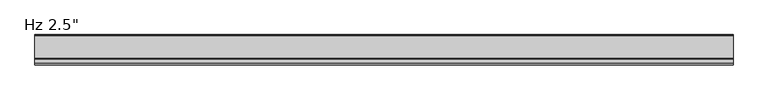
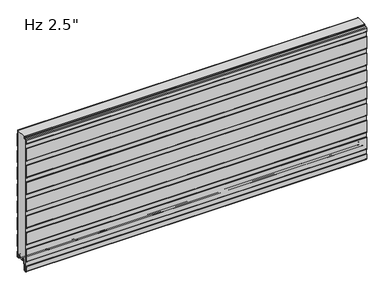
"""IFC4 building model written with IfcOpenShell, lengths in millimetres: plate geometry."""

from ifc_helpers import new_model, si_unit, point, frame, frame_2d, origin, place, context, project, spatial, polyline, circle_curve, trimmed, segment, composite_curve, outline, extrude, source, transform, mapped, element, save
from ifc_brep_helpers import plane_surface, cylinder_surface, revolved_surface, advanced_brep


def plate_1b5a5f25(model_context):
    return source(origin(), model_context, "Body", "SolidModel", [
        advanced_brep(
        [(-730.0, -17.0015368, 2.0313088), (-730.0, -18.00154, 1.0313116), (-730.0, -19.0015313, 2.0313088), (-730.0, -19.0015314, 6.0315125), (-730.0, -18.0015368, 6.0315125), (-730.0, -18.0015368, 8.7237223), (-730.0, -14.7015411, 12.023718), (-730.0, -10.3015499, 12.023718), (-730.0, -7.0015544, 8.7237225), (-730.0, -7.0015544, -1.6962564), (-730.0, -5.2315602, -3.4662506), (-730.0, -1.0000126, -3.4662506), (-730.0, -1.0000126, 21.034026), (-730.0, -2.2002516, 22.4196686), (-730.0, -2.2002516, 41.7948349), (-730.0, -1.0000209, 43.1804679), (-730.0, -1.0000209, 97.2338833), (-730.0, -2.2002516, 98.6195162), (-730.0, -2.2002516, 117.9946825), (-730.0, -1.0000209, 119.3803155), (-730.0, -1.0000209, 173.4337309), (-730.0, -2.2002516, 174.8193638), (-730.0, -2.2002516, 194.1945301), (-730.0, -1.0000209, 195.5801631), (-730.0, -1.0000209, 249.6335785), (-730.0, -2.2002516, 251.0192114), (-730.0, -2.2002516, 270.3943777), (-730.0, -1.0000209, 271.7800107), (-730.0, -1.0000209, 325.8334261), (-730.0, -2.2002516, 327.219059), (-730.0, -2.2002516, 346.5942253), (-730.0, -1.0000209, 347.9798583), (-730.0, -1.0000209, 402.0332737), (-730.0, -2.2002516, 403.4189066), (-730.0, -2.2002516, 422.7940729), (-730.0, -1.0000209, 424.1797059), (-730.0, -1.0000209, 478.2331213), (-730.0, -2.2002516, 479.6187542), (-730.0, -2.2002516, 498.9939205), (-730.0, -1.0000209, 500.3795535), (-730.0, -1.0000209, 554.4329689), (-730.0, -2.2002516, 555.8186018), (-730.0, -2.2002516, 571.2), (-730.0, -1.2002516, 571.2), (-730.0, -1.2002516, 556.1914823), (-730.0, -0.3418094, 555.2004346), (-730.0, -2.09e-05, 554.2838177), (-730.0, -2.09e-05, 500.5287046), (-730.0, -0.3418094, 499.6120877), (-730.0, -1.2002516, 498.6210401), (-730.0, -1.2002516, 479.9916347), (-730.0, -0.3418094, 479.000587), (-730.0, -2.09e-05, 478.0839701), (-730.0, -2.09e-05, 424.328857), (-730.0, -0.3418094, 423.4122401), (-730.0, -1.2002516, 422.4211925), (-730.0, -1.2002516, 403.7917871), (-730.0, -0.3418094, 402.8007394), (-730.0, -2.09e-05, 401.8841225), (-730.0, -2.09e-05, 348.1290094), (-730.0, -0.3418094, 347.2123925), (-730.0, -1.2002516, 346.2213449), (-730.0, -1.2002516, 327.5919395), (-730.0, -0.3418094, 326.6008918), (-730.0, -2.09e-05, 325.6842749), (-730.0, -2.09e-05, 271.9291618), (-730.0, -0.3418094, 271.0125449), (-730.0, -1.2002516, 270.0214973), (-730.0, -1.2002516, 251.3920919), (-730.0, -0.3418094, 250.4010442), (-730.0, -2.09e-05, 249.4844273), (-730.0, -2.09e-05, 195.7293142), (-730.0, -0.3418094, 194.8126973), (-730.0, -1.2002516, 193.8216497), (-730.0, -1.2002516, 175.1922443), (-730.0, -0.3418094, 174.2011966), (-730.0, -2.09e-05, 173.2845797), (-730.0, -2.09e-05, 119.5294666), (-730.0, -0.3418094, 118.6128497), (-730.0, -1.2002516, 117.6218021), (-730.0, -1.2002516, 98.9923967), (-730.0, -0.3418094, 98.001349), (-730.0, -2.09e-05, 97.0847321), (-730.0, -2.09e-05, 43.329619), (-730.0, -0.3418094, 42.4130021), (-730.0, -1.2002516, 41.4219545), (-730.0, -1.2002516, 22.7925491), (-730.0, -0.3418094, 21.8015014), (-730.0, -2.09e-05, 20.8847931), (-730.0, -1.26e-05, -3.0662545), (-730.0, -1.4000087, -4.4662506), (-730.0, -5.2315602, -4.4662506), (-730.0, -8.0015544, -1.6962564), (-730.0, -8.0015544, 8.7237225), (-730.0, -10.3015499, 11.023718), (-730.0, -14.7015411, 11.023718), (-730.0, -17.0015368, 8.7237223), (730.0, -17.0015368, 2.0313088), (730.0, -17.0015368, 8.7237223), (730.0, -14.7015411, 11.023718), (730.0, -10.3015499, 11.023718), (730.0, -8.0015544, 8.7237225), (730.0, -8.0015544, -1.6962564), (730.0, -5.2315602, -4.4662506), (730.0, -1.4000087, -4.4662506), (730.0, -1.26e-05, -3.0662545), (730.0, -1.26e-05, 20.8848845), (730.0, -0.3418094, 21.8015014), (730.0, -1.2002516, 22.7925491), (730.0, -1.2002516, 41.4219545), (730.0, -0.3418094, 42.4130021), (730.0, -2.09e-05, 43.329619), (730.0, -2.09e-05, 97.0847321), (730.0, -0.3418094, 98.001349), (730.0, -1.2002516, 98.9923967), (730.0, -1.2002516, 117.6218021), (730.0, -0.3418094, 118.6128497), (730.0, -2.09e-05, 119.5294666), (730.0, -2.09e-05, 173.2845797), (730.0, -0.3418094, 174.2011966), (730.0, -1.2002516, 175.1922443), (730.0, -1.2002516, 193.8216497), (730.0, -0.3418094, 194.8126973), (730.0, -2.09e-05, 195.7293142), (730.0, -2.09e-05, 249.4844273), (730.0, -0.3418094, 250.4010442), (730.0, -1.2002516, 251.3920919), (730.0, -1.2002516, 270.0214973), (730.0, -0.3418094, 271.0125449), (730.0, -2.09e-05, 271.9291618), (730.0, -2.09e-05, 325.6842749), (730.0, -0.3418094, 326.6008918), (730.0, -1.2002516, 327.5919395), (730.0, -1.2002516, 346.2213449), (730.0, -0.3418094, 347.2123925), (730.0, -2.09e-05, 348.1290094), (730.0, -2.09e-05, 401.8841225), (730.0, -0.3418094, 402.8007394), (730.0, -1.2002516, 403.7917871), (730.0, -1.2002516, 422.4211925), (730.0, -0.3418094, 423.4122401), (730.0, -2.09e-05, 424.328857), (730.0, -2.09e-05, 478.0839701), (730.0, -0.3418094, 479.000587), (730.0, -1.2002516, 479.9916347), (730.0, -1.2002516, 498.6210401), (730.0, -0.3418094, 499.6120877), (730.0, -2.09e-05, 500.5287046), (730.0, -2.09e-05, 554.2838177), (730.0, -0.3418094, 555.2004346), (730.0, -1.2002516, 556.1914823), (730.0, -1.2002516, 571.2), (730.0, -2.2002516, 571.2), (730.0, -2.2002516, 555.8186018), (730.0, -1.0000209, 554.4329689), (730.0, -1.0000209, 500.3795535), (730.0, -2.2002516, 498.9939205), (730.0, -2.2002516, 479.6187542), (730.0, -1.0000209, 478.2331213), (730.0, -1.0000209, 424.1797059), (730.0, -2.2002516, 422.7940729), (730.0, -2.2002516, 403.4189066), (730.0, -1.0000209, 402.0332737), (730.0, -1.0000209, 347.9798583), (730.0, -2.2002516, 346.5942253), (730.0, -2.2002516, 327.219059), (730.0, -1.0000209, 325.8334261), (730.0, -1.0000209, 271.7800107), (730.0, -2.2002516, 270.3943777), (730.0, -2.2002516, 251.0192114), (730.0, -1.0000209, 249.6335785), (730.0, -1.0000209, 195.5801631), (730.0, -2.2002516, 194.1945301), (730.0, -2.2002516, 174.8193638), (730.0, -1.0000209, 173.4337309), (730.0, -1.0000209, 119.3803155), (730.0, -2.2002516, 117.9946825), (730.0, -2.2002516, 98.6195162), (730.0, -1.0000209, 97.2338833), (730.0, -1.0000209, 43.1804679), (730.0, -2.2002516, 41.7948349), (730.0, -2.2002516, 22.4196686), (730.0, -1.0000126, 21.034026), (730.0, -1.0000126, -3.4662506), (730.0, -5.2315602, -3.4662506), (730.0, -7.0015544, -1.6962564), (730.0, -7.0015544, 8.7237225), (730.0, -10.3015499, 12.023718), (730.0, -14.7015411, 12.023718), (730.0, -18.0015368, 8.7237223), (730.0, -18.0015368, 6.0315125), (730.0, -19.0015314, 6.0315125), (730.0, -19.0015314, 2.0313088), (730.0, -18.00154, 1.0313116)],
        [
            (0, 1, circle_curve(frame((-730.0, -18.0015341, 2.0313088), z_axis=(-1.0, 0.0, 0.0), x_axis=(0.0, 0.0, 1.0)), 0.9999973)),
            (1, 2, circle_curve(frame((-730.0, -18.0015341, 2.0313088), z_axis=(-1.0, 0.0, 0.0), x_axis=(0.0, 0.0, 1.0)), 0.9999972)),
            (2, 3),
            (3, 4),
            (4, 5),
            (5, 6, circle_curve(frame((-730.0, -14.7015411, 8.7237223), z_axis=(-1.0, 0.0, 0.0), x_axis=(0.0, 0.0, 1.0)), 3.2999957)),
            (6, 7),
            (7, 8, circle_curve(frame((-730.0, -10.3015499, 8.7237225), z_axis=(-1.0, 0.0, 0.0), x_axis=(0.0, 0.0, 1.0)), 3.2999955)),
            (8, 9),
            (9, 10, circle_curve(frame((-730.0, -5.2315602, -1.6962564), z_axis=(1.0, 0.0, 0.0), x_axis=(0.0, 0.0, 1.0)), 1.7699942)),
            (10, 11),
            (11, 12),
            (12, 13),
            (13, 14),
            (14, 15),
            (15, 16),
            (16, 17),
            (17, 18),
            (18, 19),
            (19, 20),
            (20, 21),
            (21, 22),
            (22, 23),
            (23, 24),
            (24, 25),
            (25, 26),
            (26, 27),
            (27, 28),
            (28, 29),
            (29, 30),
            (30, 31),
            (31, 32),
            (32, 33),
            (33, 34),
            (34, 35),
            (35, 36),
            (36, 37),
            (37, 38),
            (38, 39),
            (39, 40),
            (40, 41),
            (41, 42),
            (42, 43),
            (43, 44),
            (44, 45),
            (45, 46, circle_curve(frame((-730.0, -1.4000181, 554.2838177), z_axis=(-1.0, 0.0, 0.0), x_axis=(0.0, 0.0, 1.0)), 1.3999972)),
            (46, 47),
            (47, 48, circle_curve(frame((-730.0, -1.4000181, 500.5287046), z_axis=(-1.0, 0.0, 0.0), x_axis=(0.0, 0.0, 1.0)), 1.3999972)),
            (48, 49),
            (49, 50),
            (50, 51),
            (51, 52, circle_curve(frame((-730.0, -1.4000181, 478.0839701), z_axis=(-1.0, 0.0, 0.0), x_axis=(0.0, 0.0, 1.0)), 1.3999972)),
            (52, 53),
            (53, 54, circle_curve(frame((-730.0, -1.4000181, 424.328857), z_axis=(-1.0, 0.0, 0.0), x_axis=(0.0, 0.0, 1.0)), 1.3999972)),
            (54, 55),
            (55, 56),
            (56, 57),
            (57, 58, circle_curve(frame((-730.0, -1.4000181, 401.8841225), z_axis=(-1.0, 0.0, 0.0), x_axis=(0.0, 0.0, 1.0)), 1.3999972)),
            (58, 59),
            (59, 60, circle_curve(frame((-730.0, -1.4000181, 348.1290094), z_axis=(-1.0, 0.0, 0.0), x_axis=(0.0, 0.0, 1.0)), 1.3999972)),
            (60, 61),
            (61, 62),
            (62, 63),
            (63, 64, circle_curve(frame((-730.0, -1.4000181, 325.6842749), z_axis=(-1.0, 0.0, 0.0), x_axis=(0.0, 0.0, 1.0)), 1.3999972)),
            (64, 65),
            (65, 66, circle_curve(frame((-730.0, -1.4000181, 271.9291618), z_axis=(-1.0, 0.0, 0.0), x_axis=(0.0, 0.0, 1.0)), 1.3999972)),
            (66, 67),
            (67, 68),
            (68, 69),
            (69, 70, circle_curve(frame((-730.0, -1.4000181, 249.4844273), z_axis=(-1.0, 0.0, 0.0), x_axis=(0.0, 0.0, 1.0)), 1.3999972)),
            (70, 71),
            (71, 72, circle_curve(frame((-730.0, -1.4000181, 195.7293142), z_axis=(-1.0, 0.0, 0.0), x_axis=(0.0, 0.0, 1.0)), 1.3999972)),
            (72, 73),
            (73, 74),
            (74, 75),
            (75, 76, circle_curve(frame((-730.0, -1.4000181, 173.2845797), z_axis=(-1.0, 0.0, 0.0), x_axis=(0.0, 0.0, 1.0)), 1.3999972)),
            (76, 77),
            (77, 78, circle_curve(frame((-730.0, -1.4000181, 119.5294666), z_axis=(-1.0, 0.0, 0.0), x_axis=(0.0, 0.0, 1.0)), 1.3999972)),
            (78, 79),
            (79, 80),
            (80, 81),
            (81, 82, circle_curve(frame((-730.0, -1.4000181, 97.0847321), z_axis=(-1.0, 0.0, 0.0), x_axis=(0.0, 0.0, 1.0)), 1.3999972)),
            (82, 83),
            (83, 84, circle_curve(frame((-730.0, -1.4000181, 43.329619), z_axis=(-1.0, 0.0, 0.0), x_axis=(0.0, 0.0, 1.0)), 1.3999972)),
            (84, 85),
            (85, 86),
            (86, 87),
            (87, 88, circle_curve(frame((-730.0, -1.4000181, 20.8848845), z_axis=(-1.0, 0.0, 0.0), x_axis=(0.0, 0.0, 1.0)), 1.3999972)),
            (88, 89),
            (89, 90, circle_curve(frame((-730.0, -1.4000087, -3.0662545), z_axis=(-1.0, 0.0, 0.0), x_axis=(0.0, 0.0, 1.0)), 1.3999962)),
            (90, 91),
            (91, 92, circle_curve(frame((-730.0, -5.2315602, -1.6962564), z_axis=(-1.0, 0.0, 0.0), x_axis=(0.0, 0.0, 1.0)), 2.7699942)),
            (92, 93),
            (93, 94, circle_curve(frame((-730.0, -10.3015499, 8.7237225), z_axis=(1.0, 0.0, 0.0), x_axis=(0.0, 0.0, 1.0)), 2.2999955)),
            (94, 95),
            (95, 96, circle_curve(frame((-730.0, -14.7015411, 8.7237223), z_axis=(1.0, 0.0, 0.0), x_axis=(0.0, 0.0, 1.0)), 2.2999957)),
            (96, 0),
            (97, 98),
            (98, 99, circle_curve(frame((730.0, -14.7015411, 8.7237223), z_axis=(-1.0, 0.0, 0.0), x_axis=(0.0, 0.0, 1.0)), 2.2999957)),
            (99, 100),
            (100, 101, circle_curve(frame((730.0, -10.3015499, 8.7237225), z_axis=(-1.0, 0.0, 0.0), x_axis=(0.0, 0.0, 1.0)), 2.2999955)),
            (101, 102),
            (102, 103, circle_curve(frame((730.0, -5.2315602, -1.6962564), z_axis=(1.0, 0.0, 0.0), x_axis=(0.0, 0.0, 1.0)), 2.7699942)),
            (103, 104),
            (104, 105, circle_curve(frame((730.0, -1.4000087, -3.0662545), z_axis=(1.0, 0.0, 0.0), x_axis=(0.0, 0.0, 1.0)), 1.3999962)),
            (105, 106),
            (106, 107, circle_curve(frame((730.0, -1.4000181, 20.8848845), z_axis=(1.0, 0.0, 0.0), x_axis=(0.0, 0.0, 1.0)), 1.3999972)),
            (107, 108),
            (108, 109),
            (109, 110),
            (110, 111, circle_curve(frame((730.0, -1.4000181, 43.329619), z_axis=(1.0, 0.0, 0.0), x_axis=(0.0, 0.0, 1.0)), 1.3999972)),
            (111, 112),
            (112, 113, circle_curve(frame((730.0, -1.4000181, 97.0847321), z_axis=(1.0, 0.0, 0.0), x_axis=(0.0, 0.0, 1.0)), 1.3999972)),
            (113, 114),
            (114, 115),
            (115, 116),
            (116, 117, circle_curve(frame((730.0, -1.4000181, 119.5294666), z_axis=(1.0, 0.0, 0.0), x_axis=(0.0, 0.0, 1.0)), 1.3999972)),
            (117, 118),
            (118, 119, circle_curve(frame((730.0, -1.4000181, 173.2845797), z_axis=(1.0, 0.0, 0.0), x_axis=(0.0, 0.0, 1.0)), 1.3999972)),
            (119, 120),
            (120, 121),
            (121, 122),
            (122, 123, circle_curve(frame((730.0, -1.4000181, 195.7293142), z_axis=(1.0, 0.0, 0.0), x_axis=(0.0, 0.0, 1.0)), 1.3999972)),
            (123, 124),
            (124, 125, circle_curve(frame((730.0, -1.4000181, 249.4844273), z_axis=(1.0, 0.0, 0.0), x_axis=(0.0, 0.0, 1.0)), 1.3999972)),
            (125, 126),
            (126, 127),
            (127, 128),
            (128, 129, circle_curve(frame((730.0, -1.4000181, 271.9291618), z_axis=(1.0, 0.0, 0.0), x_axis=(0.0, 0.0, 1.0)), 1.3999972)),
            (129, 130),
            (130, 131, circle_curve(frame((730.0, -1.4000181, 325.6842749), z_axis=(1.0, 0.0, 0.0), x_axis=(0.0, 0.0, 1.0)), 1.3999972)),
            (131, 132),
            (132, 133),
            (133, 134),
            (134, 135, circle_curve(frame((730.0, -1.4000181, 348.1290094), z_axis=(1.0, 0.0, 0.0), x_axis=(0.0, 0.0, 1.0)), 1.3999972)),
            (135, 136),
            (136, 137, circle_curve(frame((730.0, -1.4000181, 401.8841225), z_axis=(1.0, 0.0, 0.0), x_axis=(0.0, 0.0, 1.0)), 1.3999972)),
            (137, 138),
            (138, 139),
            (139, 140),
            (140, 141, circle_curve(frame((730.0, -1.4000181, 424.328857), z_axis=(1.0, 0.0, 0.0), x_axis=(0.0, 0.0, 1.0)), 1.3999972)),
            (141, 142),
            (142, 143, circle_curve(frame((730.0, -1.4000181, 478.0839701), z_axis=(1.0, 0.0, 0.0), x_axis=(0.0, 0.0, 1.0)), 1.3999972)),
            (143, 144),
            (144, 145),
            (145, 146),
            (146, 147, circle_curve(frame((730.0, -1.4000181, 500.5287046), z_axis=(1.0, 0.0, 0.0), x_axis=(0.0, 0.0, 1.0)), 1.3999972)),
            (147, 148),
            (148, 149, circle_curve(frame((730.0, -1.4000181, 554.2838177), z_axis=(1.0, 0.0, 0.0), x_axis=(0.0, 0.0, 1.0)), 1.3999972)),
            (149, 150),
            (150, 151),
            (151, 152),
            (152, 153),
            (153, 154),
            (154, 155),
            (155, 156),
            (156, 157),
            (157, 158),
            (158, 159),
            (159, 160),
            (160, 161),
            (161, 162),
            (162, 163),
            (163, 164),
            (164, 165),
            (165, 166),
            (166, 167),
            (167, 168),
            (168, 169),
            (169, 170),
            (170, 171),
            (171, 172),
            (172, 173),
            (173, 174),
            (174, 175),
            (175, 176),
            (176, 177),
            (177, 178),
            (178, 179),
            (179, 180),
            (180, 181),
            (181, 182),
            (182, 183),
            (183, 184),
            (184, 185, circle_curve(frame((730.0, -5.2315602, -1.6962564), z_axis=(-1.0, 0.0, 0.0), x_axis=(0.0, 0.0, 1.0)), 1.7699942)),
            (185, 186),
            (186, 187, circle_curve(frame((730.0, -10.3015499, 8.7237225), z_axis=(1.0, 0.0, 0.0), x_axis=(0.0, 0.0, 1.0)), 3.2999955)),
            (187, 188),
            (188, 189, circle_curve(frame((730.0, -14.7015411, 8.7237223), z_axis=(1.0, 0.0, 0.0), x_axis=(0.0, 0.0, 1.0)), 3.2999957)),
            (189, 190),
            (190, 191),
            (191, 192),
            (192, 193, circle_curve(frame((730.0, -18.0015341, 2.0313088), z_axis=(1.0, 0.0, 0.0), x_axis=(0.0, 0.0, 1.0)), 0.9999972)),
            (193, 97, circle_curve(frame((730.0, -18.0015341, 2.0313088), z_axis=(1.0, 0.0, 0.0), x_axis=(0.0, 0.0, 1.0)), 0.9999973)),
            (96, 98),
            (97, 0),
            (95, 99),
            (94, 100),
            (93, 101),
            (92, 102),
            (91, 103),
            (90, 104),
            (89, 105),
            (88, 106),
            (70, 124),
            (123, 71),
            (87, 107),
            (86, 108),
            (85, 109),
            (83, 111),
            (110, 84),
            (81, 113),
            (112, 82),
            (66, 128),
            (127, 67),
            (122, 72),
            (121, 73),
            (76, 118),
            (117, 77),
            (69, 125),
            (68, 126),
            (65, 129),
            (116, 78),
            (79, 115),
            (114, 80),
            (75, 119),
            (74, 120),
            (2, 192),
            (191, 3),
            (1, 193),
            (64, 130),
            (63, 131),
            (62, 132),
            (61, 133),
            (60, 134),
            (59, 135),
            (58, 136),
            (31, 163),
            (162, 32),
            (30, 164),
            (29, 165),
            (28, 166),
            (27, 167),
            (26, 168),
            (25, 169),
            (24, 170),
            (23, 171),
            (22, 172),
            (21, 173),
            (20, 174),
            (19, 175),
            (18, 176),
            (17, 177),
            (16, 178),
            (15, 179),
            (14, 180),
            (13, 181),
            (12, 182),
            (11, 183),
            (10, 184),
            (9, 185),
            (8, 186),
            (7, 187),
            (6, 188),
            (5, 189),
            (4, 190),
            (42, 152),
            (151, 43),
            (57, 137),
            (56, 138),
            (54, 140),
            (139, 55),
            (51, 143),
            (142, 52),
            (50, 144),
            (48, 146),
            (145, 49),
            (45, 149),
            (148, 46),
            (44, 150),
            (41, 153),
            (40, 154),
            (39, 155),
            (38, 156),
            (53, 141),
            (47, 147),
            (37, 157),
            (36, 158),
            (35, 159),
            (34, 160),
            (33, 161),
        ],
        [
            plane_surface(frame((-730.0, -2.09e-05, 304.8), z_axis=(-1.0, 0.0, 0.0), x_axis=(0.0, 1.0, 0.0))),
            plane_surface(frame((730.0, -2.09e-05, 304.8), z_axis=(1.0, 0.0, 0.0), x_axis=(0.0, 1.0, 0.0))),
            plane_surface(frame((-730.0, -17.0015368, 2.0313088), z_axis=(0.0, 1.0, 0.0), x_axis=(1.0, 0.0, 0.0))),
            revolved_surface(polyline([(730.0, -14.7015411, 11.023718), (-730.0, -14.7015411, 11.023718)]), (-730.0, -14.7015411, 8.7237223), (1.0, 0.0, 0.0)),
            plane_surface(frame((-730.0, -14.7015411, 11.023718), z_axis=(0.0, 0.0, -1.0), x_axis=(1.0, 0.0, 0.0))),
            revolved_surface(polyline([(730.0, -10.3015499, 11.023717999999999), (-730.0, -10.3015499, 11.023717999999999)]), (-730.0, -10.3015499, 8.7237225), (1.0, 0.0, 0.0)),
            plane_surface(frame((-730.0, -8.0015544, 8.7237225), z_axis=(0.0, -1.0, 0.0), x_axis=(1.0, 0.0, 0.0))),
            cylinder_surface(frame((-730.0, -5.2315602, -1.6962564), z_axis=(-1.0, 0.0, 0.0), x_axis=(0.0, 0.0, 1.0)), 2.7699942),
            plane_surface(frame((-730.0, -5.2315602, -4.4662506), z_axis=(0.0, 0.0, -1.0), x_axis=(1.0, 0.0, 0.0))),
            cylinder_surface(frame((-730.0, -1.4000087, -3.0662545), z_axis=(-1.0, 0.0, 0.0), x_axis=(0.0, 0.0, 1.0)), 1.3999962),
            plane_surface(frame((-730.0, -1.26e-05, -3.0662545), z_axis=(0.0, 1.0, 0.0), x_axis=(1.0, 0.0, 0.0))),
            plane_surface(frame((-730.0, -2.09e-05, 195.7293142), z_axis=(0.0, 1.0, 0.0), x_axis=(1.0, 0.0, 0.0))),
            cylinder_surface(frame((-730.0, -1.4000181, 20.8848845), z_axis=(-1.0, 0.0, 0.0), x_axis=(0.0, 0.0, 1.0)), 1.3999972),
            plane_surface(frame((-730.0, -0.3418094, 21.8015014), z_axis=(0.0, 0.755864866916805, 0.6547276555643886), x_axis=(1.0, 0.0, 0.0))),
            plane_surface(frame((-730.0, -1.2002516, 32.1072518), z_axis=(0.0, 1.0, 0.0), x_axis=(1.0, 0.0, 0.0))),
            cylinder_surface(frame((-730.0, -1.4000181, 43.329619), z_axis=(-1.0, 0.0, 0.0), x_axis=(0.0, 0.0, 1.0)), 1.3999972),
            plane_surface(frame((-730.0, -1.2002516, 41.4219545), z_axis=(0.0, 0.755864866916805, -0.6547276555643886), x_axis=(1.0, 0.0, 0.0))),
            cylinder_surface(frame((-730.0, -1.4000181, 97.0847321), z_axis=(-1.0, 0.0, 0.0), x_axis=(0.0, 0.0, 1.0)), 1.3999972),
            plane_surface(frame((-730.0, -1.2002516, 270.0214973), z_axis=(0.0, 0.755864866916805, -0.6547276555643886), x_axis=(1.0, 0.0, 0.0))),
            cylinder_surface(frame((-730.0, -1.4000181, 195.7293142), z_axis=(-1.0, 0.0, 0.0), x_axis=(0.0, 0.0, 1.0)), 1.3999972),
            plane_surface(frame((-730.0, -1.2002516, 193.8216497), z_axis=(0.0, 0.755864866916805, -0.6547276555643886), x_axis=(1.0, 0.0, 0.0))),
            plane_surface(frame((-730.0, -2.09e-05, 119.5294666), z_axis=(0.0, 1.0, 0.0), x_axis=(1.0, 0.0, 0.0))),
            cylinder_surface(frame((-730.0, -1.4000181, 249.4844273), z_axis=(-1.0, 0.0, 0.0), x_axis=(0.0, 0.0, 1.0)), 1.3999972),
            plane_surface(frame((-730.0, -0.3418094, 250.4010442), z_axis=(0.0, 0.755864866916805, 0.6547276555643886), x_axis=(1.0, 0.0, 0.0))),
            plane_surface(frame((-730.0, -1.2002516, 260.7067946), z_axis=(0.0, 1.0, 0.0), x_axis=(1.0, 0.0, 0.0))),
            cylinder_surface(frame((-730.0, -1.4000181, 271.9291618), z_axis=(-1.0, 0.0, 0.0), x_axis=(0.0, 0.0, 1.0)), 1.3999972),
            cylinder_surface(frame((-730.0, -1.4000181, 119.5294666), z_axis=(-1.0, 0.0, 0.0), x_axis=(0.0, 0.0, 1.0)), 1.3999972),
            plane_surface(frame((-730.0, -1.2002516, 108.3070994), z_axis=(0.0, 1.0, 0.0), x_axis=(1.0, 0.0, 0.0))),
            plane_surface(frame((-730.0, -0.3418094, 98.001349), z_axis=(0.0, 0.755864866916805, 0.6547276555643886), x_axis=(1.0, 0.0, 0.0))),
            plane_surface(frame((-730.0, -1.2002516, 117.6218021), z_axis=(0.0, 0.755864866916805, -0.6547276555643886), x_axis=(1.0, 0.0, 0.0))),
            plane_surface(frame((-730.0, -2.09e-05, 43.329619), z_axis=(0.0, 1.0, 0.0), x_axis=(1.0, 0.0, 0.0))),
            cylinder_surface(frame((-730.0, -1.4000181, 173.2845797), z_axis=(-1.0, 0.0, 0.0), x_axis=(0.0, 0.0, 1.0)), 1.3999972),
            plane_surface(frame((-730.0, -0.3418094, 174.2011966), z_axis=(0.0, 0.755864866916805, 0.6547276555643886), x_axis=(1.0, 0.0, 0.0))),
            plane_surface(frame((-730.0, -1.2002516, 184.506947), z_axis=(0.0, 1.0, 0.0), x_axis=(1.0, 0.0, 0.0))),
            plane_surface(frame((-730.0, -19.0015314, 6.0315125), z_axis=(0.0, -1.0, 0.0), x_axis=(1.0, 0.0, 0.0))),
            cylinder_surface(frame((-730.0, -18.0015341, 2.0313088), z_axis=(-1.0, 0.0, 0.0), x_axis=(0.0, 0.0, 1.0)), 0.9999972),
            cylinder_surface(frame((-730.0, -18.0015341, 2.0313088), z_axis=(-1.0, 0.0, 0.0), x_axis=(0.0, 0.0, 1.0)), 0.9999973),
            plane_surface(frame((-730.0, -2.09e-05, 271.9291618), z_axis=(0.0, 1.0, 0.0), x_axis=(1.0, 0.0, 0.0))),
            cylinder_surface(frame((-730.0, -1.4000181, 325.6842749), z_axis=(-1.0, 0.0, 0.0), x_axis=(0.0, 0.0, 1.0)), 1.3999972),
            plane_surface(frame((-730.0, -0.3418094, 326.6008918), z_axis=(0.0, 0.755864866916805, 0.6547276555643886), x_axis=(1.0, 0.0, 0.0))),
            plane_surface(frame((-730.0, -1.2002516, 336.9066422), z_axis=(0.0, 1.0, 0.0), x_axis=(1.0, 0.0, 0.0))),
            plane_surface(frame((-730.0, -1.2002516, 346.2213449), z_axis=(0.0, 0.755864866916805, -0.6547276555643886), x_axis=(1.0, 0.0, 0.0))),
            cylinder_surface(frame((-730.0, -1.4000181, 348.1290094), z_axis=(-1.0, 0.0, 0.0), x_axis=(0.0, 0.0, 1.0)), 1.3999972),
            plane_surface(frame((-730.0, -2.09e-05, 348.1290094), z_axis=(0.0, 1.0, 0.0), x_axis=(1.0, 0.0, 0.0))),
            plane_surface(frame((-730.0, -1.0000209, 402.0332737), z_axis=(0.0, -1.0, 0.0), x_axis=(1.0, 0.0, 0.0))),
            plane_surface(frame((-730.0, -1.0000209, 347.9798583), z_axis=(0.0, -0.755864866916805, 0.6547276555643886), x_axis=(1.0, 0.0, 0.0))),
            plane_surface(frame((-730.0, -2.2002516, 346.5942253), z_axis=(0.0, -1.0, 0.0), x_axis=(1.0, 0.0, 0.0))),
            plane_surface(frame((-730.0, -2.2002516, 327.219059), z_axis=(0.0, -0.755864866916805, -0.6547276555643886), x_axis=(1.0, 0.0, 0.0))),
            plane_surface(frame((-730.0, -1.0000209, 325.8334261), z_axis=(0.0, -1.0, 0.0), x_axis=(1.0, 0.0, 0.0))),
            plane_surface(frame((-730.0, -1.0000209, 271.7800107), z_axis=(0.0, -0.755864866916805, 0.6547276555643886), x_axis=(1.0, 0.0, 0.0))),
            plane_surface(frame((-730.0, -2.2002516, 270.3943777), z_axis=(0.0, -1.0, 0.0), x_axis=(1.0, 0.0, 0.0))),
            plane_surface(frame((-730.0, -2.2002516, 251.0192114), z_axis=(0.0, -0.755864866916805, -0.6547276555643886), x_axis=(1.0, 0.0, 0.0))),
            plane_surface(frame((-730.0, -1.0000209, 249.6335785), z_axis=(0.0, -1.0, 0.0), x_axis=(1.0, 0.0, 0.0))),
            plane_surface(frame((-730.0, -1.0000209, 195.5801631), z_axis=(0.0, -0.755864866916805, 0.6547276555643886), x_axis=(1.0, 0.0, 0.0))),
            plane_surface(frame((-730.0, -2.2002516, 194.1945301), z_axis=(0.0, -1.0, 0.0), x_axis=(1.0, 0.0, 0.0))),
            plane_surface(frame((-730.0, -2.2002516, 174.8193638), z_axis=(0.0, -0.755864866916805, -0.6547276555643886), x_axis=(1.0, 0.0, 0.0))),
            plane_surface(frame((-730.0, -1.0000209, 173.4337309), z_axis=(0.0, -1.0, 0.0), x_axis=(1.0, 0.0, 0.0))),
            plane_surface(frame((-730.0, -1.0000209, 119.3803155), z_axis=(0.0, -0.755864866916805, 0.6547276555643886), x_axis=(1.0, 0.0, 0.0))),
            plane_surface(frame((-730.0, -2.2002516, 117.9946825), z_axis=(0.0, -1.0, 0.0), x_axis=(1.0, 0.0, 0.0))),
            plane_surface(frame((-730.0, -2.2002516, 98.6195162), z_axis=(0.0, -0.755864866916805, -0.6547276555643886), x_axis=(1.0, 0.0, 0.0))),
            plane_surface(frame((-730.0, -1.0000209, 97.2338833), z_axis=(0.0, -1.0, 0.0), x_axis=(1.0, 0.0, 0.0))),
            plane_surface(frame((-730.0, -1.0000209, 43.1804679), z_axis=(0.0, -0.755864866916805, 0.6547276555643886), x_axis=(1.0, 0.0, 0.0))),
            plane_surface(frame((-730.0, -2.2002516, 41.7948349), z_axis=(0.0, -1.0, 0.0), x_axis=(1.0, 0.0, 0.0))),
            plane_surface(frame((-730.0, -2.2002516, 22.4196686), z_axis=(0.0, -0.755864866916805, -0.6547276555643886), x_axis=(1.0, 0.0, 0.0))),
            plane_surface(frame((-730.0, -1.0000126, 21.034026), z_axis=(0.0, -1.0, 0.0), x_axis=(1.0, 0.0, 0.0))),
            plane_surface(frame((-730.0, -1.0000126, -3.4662506), z_axis=(0.0, 0.0, 1.0), x_axis=(1.0, 0.0, 0.0))),
            revolved_surface(polyline([(730.0, -5.2315602, 0.07373779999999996), (-730.0, -5.2315602, 0.07373779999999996)]), (-730.0, -5.2315602, -1.6962564), (1.0, 0.0, 0.0)),
            plane_surface(frame((-730.0, -7.0015544, -1.6962564), z_axis=(0.0, 1.0, 0.0), x_axis=(1.0, 0.0, 0.0))),
            cylinder_surface(frame((-730.0, -10.3015499, 8.7237225), z_axis=(-1.0, 0.0, 0.0), x_axis=(0.0, 0.0, 1.0)), 3.2999955),
            plane_surface(frame((-730.0, -10.3015499, 12.023718), z_axis=(0.0, 0.0, 1.0), x_axis=(1.0, 0.0, 0.0))),
            cylinder_surface(frame((-730.0, -14.7015411, 8.7237223), z_axis=(-1.0, 0.0, 0.0), x_axis=(0.0, 0.0, 1.0)), 3.2999957),
            plane_surface(frame((-730.0, -18.0015368, 8.7237223), z_axis=(0.0, -1.0, 0.0), x_axis=(1.0, 0.0, 0.0))),
            plane_surface(frame((-730.0, -18.0015368, 6.0315125), z_axis=(0.0, 0.0, 1.0), x_axis=(1.0, 0.0, 0.0))),
            plane_surface(frame((730.0, 9.9999791, 571.2), z_axis=(0.0, 0.0, 1.0), x_axis=(-1.0, 0.0, 0.0))),
            cylinder_surface(frame((-730.0, -1.4000181, 401.8841225), z_axis=(-1.0, 0.0, 0.0), x_axis=(0.0, 0.0, 1.0)), 1.3999972),
            plane_surface(frame((-730.0, -0.3418094, 402.8007394), z_axis=(0.0, 0.755864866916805, 0.6547276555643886), x_axis=(1.0, 0.0, 0.0))),
            plane_surface(frame((-730.0, -1.2002516, 422.4211925), z_axis=(0.0, 0.755864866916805, -0.6547276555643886), x_axis=(1.0, 0.0, 0.0))),
            cylinder_surface(frame((-730.0, -1.4000181, 478.0839701), z_axis=(-1.0, 0.0, 0.0), x_axis=(0.0, 0.0, 1.0)), 1.3999972),
            plane_surface(frame((-730.0, -0.3418094, 479.000587), z_axis=(0.0, 0.755864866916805, 0.6547276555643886), x_axis=(1.0, 0.0, 0.0))),
            plane_surface(frame((-730.0, -1.2002516, 498.6210401), z_axis=(0.0, 0.755864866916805, -0.6547276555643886), x_axis=(1.0, 0.0, 0.0))),
            cylinder_surface(frame((-730.0, -1.4000181, 554.2838177), z_axis=(-1.0, 0.0, 0.0), x_axis=(0.0, 0.0, 1.0)), 1.3999972),
            plane_surface(frame((-730.0, -0.3418094, 555.2004346), z_axis=(0.0, 0.755864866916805, 0.6547276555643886), x_axis=(1.0, 0.0, 0.0))),
            plane_surface(frame((-730.0, -2.2002516, 575.1937681), z_axis=(0.0, -1.0, 0.0), x_axis=(1.0, 0.0, 0.0))),
            plane_surface(frame((-730.0, -2.2002516, 555.8186018), z_axis=(0.0, -0.755864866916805, -0.6547276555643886), x_axis=(1.0, 0.0, 0.0))),
            plane_surface(frame((-730.0, -1.0000209, 554.4329689), z_axis=(0.0, -1.0, 0.0), x_axis=(1.0, 0.0, 0.0))),
            plane_surface(frame((-730.0, -1.0000209, 500.3795535), z_axis=(0.0, -0.755864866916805, 0.6547276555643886), x_axis=(1.0, 0.0, 0.0))),
            plane_surface(frame((-730.0, -1.2002516, 413.1064898), z_axis=(0.0, 1.0, 0.0), x_axis=(1.0, 0.0, 0.0))),
            cylinder_surface(frame((-730.0, -1.4000181, 424.328857), z_axis=(-1.0, 0.0, 0.0), x_axis=(0.0, 0.0, 1.0)), 1.3999972),
            plane_surface(frame((-730.0, -2.09e-05, 424.328857), z_axis=(0.0, 1.0, 0.0), x_axis=(1.0, 0.0, 0.0))),
            plane_surface(frame((-730.0, -1.2002516, 489.3063374), z_axis=(0.0, 1.0, 0.0), x_axis=(1.0, 0.0, 0.0))),
            cylinder_surface(frame((-730.0, -1.4000181, 500.5287046), z_axis=(-1.0, 0.0, 0.0), x_axis=(0.0, 0.0, 1.0)), 1.3999972),
            plane_surface(frame((-730.0, -2.09e-05, 500.5287046), z_axis=(0.0, 1.0, 0.0), x_axis=(1.0, 0.0, 0.0))),
            plane_surface(frame((-730.0, -1.2002516, 565.506185), z_axis=(0.0, 1.0, 0.0), x_axis=(1.0, 0.0, 0.0))),
            plane_surface(frame((-730.0, -2.2002516, 498.9939205), z_axis=(0.0, -1.0, 0.0), x_axis=(1.0, 0.0, 0.0))),
            plane_surface(frame((-730.0, -2.2002516, 479.6187542), z_axis=(0.0, -0.755864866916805, -0.6547276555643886), x_axis=(1.0, 0.0, 0.0))),
            plane_surface(frame((-730.0, -1.0000209, 478.2331213), z_axis=(0.0, -1.0, 0.0), x_axis=(1.0, 0.0, 0.0))),
            plane_surface(frame((-730.0, -1.0000209, 424.1797059), z_axis=(0.0, -0.755864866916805, 0.6547276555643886), x_axis=(1.0, 0.0, 0.0))),
            plane_surface(frame((-730.0, -2.2002516, 422.7940729), z_axis=(0.0, -1.0, 0.0), x_axis=(1.0, 0.0, 0.0))),
            plane_surface(frame((-730.0, -2.2002516, 403.4189066), z_axis=(0.0, -0.755864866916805, -0.6547276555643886), x_axis=(1.0, 0.0, 0.0))),
        ],
        [
            (0, [[1, 2, 3, 4, 5, 6, 7, 8, 9, 10, 11, 12, 13, 14, 15, 16, 17, 18, 19, 20, 21, 22, 23, 24, 25, 26, 27, 28, 29, 30, 31, 32, 33, 34, 35, 36, 37, 38, 39, 40, 41, 42, 43, 44, 45, 46, 47, 48, 49, 50, 51, 52, 53, 54, 55, 56, 57, 58, 59, 60, 61, 62, 63, 64, 65, 66, 67, 68, 69, 70, 71, 72, 73, 74, 75, 76, 77, 78, 79, 80, 81, 82, 83, 84, 85, 86, 87, 88, 89, 90, 91, 92, 93, 94, 95, 96, 97]]),
            (1, [[98, 99, 100, 101, 102, 103, 104, 105, 106, 107, 108, 109, 110, 111, 112, 113, 114, 115, 116, 117, 118, 119, 120, 121, 122, 123, 124, 125, 126, 127, 128, 129, 130, 131, 132, 133, 134, 135, 136, 137, 138, 139, 140, 141, 142, 143, 144, 145, 146, 147, 148, 149, 150, 151, 152, 153, 154, 155, 156, 157, 158, 159, 160, 161, 162, 163, 164, 165, 166, 167, 168, 169, 170, 171, 172, 173, 174, 175, 176, 177, 178, 179, 180, 181, 182, 183, 184, 185, 186, 187, 188, 189, 190, 191, 192, 193, 194]]),
            (2, [[195, -98, 196, -97]]),
            (3, [[197, -99, -195, -96]]),
            (4, [[198, -100, -197, -95]]),
            (5, [[199, -101, -198, -94]]),
            (6, [[200, -102, -199, -93]]),
            (7, [[201, -103, -200, -92]]),
            (8, [[202, -104, -201, -91]]),
            (9, [[203, -105, -202, -90]]),
            (10, [[204, -106, -203, -89]]),
            (11, [[205, -124, 206, -71]]),
            (12, [[207, -107, -204, -88]]),
            (13, [[208, -108, -207, -87]]),
            (14, [[209, -109, -208, -86]]),
            (15, [[210, -111, 211, -84]]),
            (16, [[-211, -110, -209, -85]]),
            (17, [[212, -113, 213, -82]]),
            (18, [[214, -128, 215, -67]]),
            (19, [[-206, -123, 216, -72]]),
            (20, [[-216, -122, 217, -73]]),
            (21, [[218, -118, 219, -77]]),
            (22, [[220, -125, -205, -70]]),
            (23, [[221, -126, -220, -69]]),
            (24, [[-215, -127, -221, -68]]),
            (25, [[222, -129, -214, -66]]),
            (26, [[-219, -117, 223, -78]]),
            (27, [[224, -115, 225, -80]]),
            (28, [[-225, -114, -212, -81]]),
            (29, [[-223, -116, -224, -79]]),
            (30, [[-213, -112, -210, -83]]),
            (31, [[226, -119, -218, -76]]),
            (32, [[227, -120, -226, -75]]),
            (33, [[-217, -121, -227, -74]]),
            (34, [[228, -192, 229, -3]]),
            (35, [[230, -193, -228, -2]]),
            (36, [[-196, -194, -230, -1]]),
            (37, [[231, -130, -222, -65]]),
            (38, [[232, -131, -231, -64]]),
            (39, [[233, -132, -232, -63]]),
            (40, [[234, -133, -233, -62]]),
            (41, [[235, -134, -234, -61]]),
            (42, [[236, -135, -235, -60]]),
            (43, [[237, -136, -236, -59]]),
            (44, [[238, -163, 239, -32]]),
            (45, [[240, -164, -238, -31]]),
            (46, [[241, -165, -240, -30]]),
            (47, [[242, -166, -241, -29]]),
            (48, [[243, -167, -242, -28]]),
            (49, [[244, -168, -243, -27]]),
            (50, [[245, -169, -244, -26]]),
            (51, [[246, -170, -245, -25]]),
            (52, [[247, -171, -246, -24]]),
            (53, [[248, -172, -247, -23]]),
            (54, [[249, -173, -248, -22]]),
            (55, [[250, -174, -249, -21]]),
            (56, [[251, -175, -250, -20]]),
            (57, [[252, -176, -251, -19]]),
            (58, [[253, -177, -252, -18]]),
            (59, [[254, -178, -253, -17]]),
            (60, [[255, -179, -254, -16]]),
            (61, [[256, -180, -255, -15]]),
            (62, [[257, -181, -256, -14]]),
            (63, [[258, -182, -257, -13]]),
            (64, [[259, -183, -258, -12]]),
            (65, [[260, -184, -259, -11]]),
            (66, [[261, -185, -260, -10]]),
            (67, [[262, -186, -261, -9]]),
            (68, [[263, -187, -262, -8]]),
            (69, [[264, -188, -263, -7]]),
            (70, [[265, -189, -264, -6]]),
            (71, [[266, -190, -265, -5]]),
            (72, [[-229, -191, -266, -4]]),
            (73, [[267, -152, 268, -43]]),
            (74, [[269, -137, -237, -58]]),
            (75, [[270, -138, -269, -57]]),
            (76, [[271, -140, 272, -55]]),
            (77, [[273, -143, 274, -52]]),
            (78, [[275, -144, -273, -51]]),
            (79, [[276, -146, 277, -49]]),
            (80, [[278, -149, 279, -46]]),
            (81, [[280, -150, -278, -45]]),
            (82, [[-153, -267, -42, 281]]),
            (83, [[282, -154, -281, -41]]),
            (84, [[283, -155, -282, -40]]),
            (85, [[284, -156, -283, -39]]),
            (86, [[-272, -139, -270, -56]]),
            (87, [[285, -141, -271, -54]]),
            (88, [[-274, -142, -285, -53]]),
            (89, [[-277, -145, -275, -50]]),
            (90, [[286, -147, -276, -48]]),
            (91, [[-279, -148, -286, -47]]),
            (92, [[-44, -268, -151, -280]]),
            (93, [[287, -157, -284, -38]]),
            (94, [[288, -158, -287, -37]]),
            (95, [[289, -159, -288, -36]]),
            (96, [[290, -160, -289, -35]]),
            (97, [[291, -161, -290, -34]]),
            (98, [[-239, -162, -291, -33]]),
        ],
    ),
        extrude(outline(composite_curve([segment(trimmed(circle_curve(frame_2d((-62.0998926, -10.6415934)), 1.3998661), [point((-63.4997587, -10.6415934))], [point((-63.0325165, -9.5976403))], False, "CARTESIAN"), True, "CONTINUOUS"), segment(polyline([(-63.0325165, -9.5976403), (-62.2997902, -8.8649141), (-62.2997902, 10.0260713), (-63.0327558, 10.7590369)]), True, "CONTINUOUS"), segment(trimmed(circle_curve(frame_2d((-62.1000446, 11.8030877)), 1.3999972), [point((-63.0327558, 10.7590369))], [point((-63.5000209, 11.810741))], False, "CARTESIAN"), True, "CONTINUOUS"), segment(polyline([(-63.5000209, 11.810741), (-63.5000209, 65.5582542)]), True, "CONTINUOUS"), segment(trimmed(circle_curve(frame_2d((-62.1000237, 65.5582542)), 1.3999972), [point((-63.5000209, 65.5582542))], [point((-63.0327349, 66.602305))], False, "CARTESIAN"), True, "CONTINUOUS"), segment(polyline([(-63.0327349, 66.602305), (-62.2997902, 67.3352497), (-62.2997902, 86.2259189), (-63.0327558, 86.9588845)]), True, "CONTINUOUS"), segment(trimmed(circle_curve(frame_2d((-62.1000446, 88.0029353)), 1.3999972), [point((-63.0327558, 86.9588845))], [point((-63.5000209, 88.0105886))], False, "CARTESIAN"), True, "CONTINUOUS"), segment(polyline([(-63.5000209, 88.0105886), (-63.5000209, 141.7581018)]), True, "CONTINUOUS"), segment(trimmed(circle_curve(frame_2d((-62.1000237, 141.7581018)), 1.3999972), [point((-63.5000209, 141.7581018))], [point((-63.0327349, 142.8021526))], False, "CARTESIAN"), True, "CONTINUOUS"), segment(polyline([(-63.0327349, 142.8021526), (-62.2997902, 143.5350973), (-62.2997902, 162.4257665), (-63.0327558, 163.1587321)]), True, "CONTINUOUS"), segment(trimmed(circle_curve(frame_2d((-62.1000446, 164.2027829)), 1.3999972), [point((-63.0327558, 163.1587321))], [point((-63.5000209, 164.2104362))], False, "CARTESIAN"), True, "CONTINUOUS"), segment(polyline([(-63.5000209, 164.2104362), (-63.5000209, 217.9579494)]), True, "CONTINUOUS"), segment(trimmed(circle_curve(frame_2d((-62.1000237, 217.9579494)), 1.3999972), [point((-63.5000209, 217.9579494))], [point((-63.0327349, 219.0020002))], False, "CARTESIAN"), True, "CONTINUOUS"), segment(polyline([(-63.0327349, 219.0020002), (-62.2997902, 219.7349449), (-62.2997902, 238.6256141), (-63.0327558, 239.3585797)]), True, "CONTINUOUS"), segment(trimmed(circle_curve(frame_2d((-62.1000446, 240.4026305)), 1.3999972), [point((-63.0327558, 239.3585797))], [point((-63.5000209, 240.4102838))], False, "CARTESIAN"), True, "CONTINUOUS"), segment(polyline([(-63.5000209, 240.4102838), (-63.5000209, 294.157797)]), True, "CONTINUOUS"), segment(trimmed(circle_curve(frame_2d((-62.1000237, 294.157797)), 1.3999972), [point((-63.5000209, 294.157797))], [point((-63.0327349, 295.2018478))], False, "CARTESIAN"), True, "CONTINUOUS"), segment(polyline([(-63.0327349, 295.2018478), (-62.2997902, 295.9347925), (-62.2997902, 314.8254617), (-63.0327558, 315.5584273)]), True, "CONTINUOUS"), segment(trimmed(circle_curve(frame_2d((-62.1000446, 316.6024781)), 1.3999972), [point((-63.0327558, 315.5584273))], [point((-63.5000209, 316.6101314))], False, "CARTESIAN"), True, "CONTINUOUS"), segment(polyline([(-63.5000209, 316.6101314), (-63.5000209, 370.3576446)]), True, "CONTINUOUS"), segment(trimmed(circle_curve(frame_2d((-62.1000237, 370.3576446)), 1.3999972), [point((-63.5000209, 370.3576446))], [point((-63.0327349, 371.4016954))], False, "CARTESIAN"), True, "CONTINUOUS"), segment(polyline([(-63.0327349, 371.4016954), (-62.2997902, 372.1346401), (-62.2997902, 391.0253093), (-63.0327558, 391.7582749)]), True, "CONTINUOUS"), segment(trimmed(circle_curve(frame_2d((-62.1000446, 392.8023257)), 1.3999972), [point((-63.0327558, 391.7582749))], [point((-63.5000209, 392.809979))], False, "CARTESIAN"), True, "CONTINUOUS"), segment(polyline([(-63.5000209, 392.809979), (-63.5000209, 446.5574922)]), True, "CONTINUOUS"), segment(trimmed(circle_curve(frame_2d((-62.1000237, 446.5574922)), 1.3999972), [point((-63.5000209, 446.5574922))], [point((-63.0327349, 447.601543))], False, "CARTESIAN"), True, "CONTINUOUS"), segment(polyline([(-63.0327349, 447.601543), (-62.2997902, 448.3344877), (-62.2997902, 467.2251569), (-63.0327558, 467.9581225)]), True, "CONTINUOUS"), segment(trimmed(circle_curve(frame_2d((-62.1000446, 469.0021733)), 1.3999972), [point((-63.0327558, 467.9581225))], [point((-63.5000209, 469.0098266))], False, "CARTESIAN"), True, "CONTINUOUS"), segment(polyline([(-63.5000209, 469.0098266), (-63.5000209, 522.7573398)]), True, "CONTINUOUS"), segment(trimmed(circle_curve(frame_2d((-62.1000237, 522.7573398)), 1.3999972), [point((-63.5000209, 522.7573398))], [point((-63.0327349, 523.8013906))], False, "CARTESIAN"), True, "CONTINUOUS"), segment(polyline([(-63.0327349, 523.8013906), (-62.2997902, 524.5343353), (-62.2997902, 543.4250045), (-63.0327558, 544.1579701)]), True, "CONTINUOUS"), segment(trimmed(circle_curve(frame_2d((-62.1000446, 545.2020209)), 1.3999972), [point((-63.0327558, 544.1579701))], [point((-63.4991193, 545.2528361))], False, "CARTESIAN"), True, "CONTINUOUS"), segment(polyline([(-63.4991193, 545.2528361), (-63.4991193, 561.1384359)]), True, "CONTINUOUS"), segment(trimmed(circle_curve(frame_2d((-60.5491252, 561.1384359)), 2.9499941), [point((-63.4991193, 561.1384359))], [point((-60.8062341, 564.0772044))], False, "CARTESIAN"), True, "CONTINUOUS"), segment(polyline([(-60.8062341, 564.0772044), (-52.3419377, 564.8177344)]), True, "CONTINUOUS"), segment(trimmed(circle_curve(frame_2d((-52.5188635, 566.8400056)), 2.0299959), [point((-52.3419377, 564.8177344))], [point((-50.4914776, 566.9429135))], True, "CARTESIAN"), True, "CONTINUOUS"), segment(polyline([(-50.4914776, 566.9429135), (-50.4914776, 571.2), (-49.4914776, 571.2), (-49.4914776, 566.9657441)]), True, "CONTINUOUS"), segment(trimmed(circle_curve(frame_2d((-52.5188635, 566.8400056)), 3.0299959), [point((-49.4914776, 566.9657441))], [point((-52.254782, 563.8215397))], False, "CARTESIAN"), True, "CONTINUOUS"), segment(polyline([(-52.254782, 563.8215397), (-60.7190784, 563.0810097)]), True, "CONTINUOUS"), segment(trimmed(circle_curve(frame_2d((-60.5491252, 561.1384359)), 1.9499941), [point((-60.7190784, 563.0810097))], [point((-62.4991193, 561.1384359))], True, "CARTESIAN"), True, "CONTINUOUS"), segment(polyline([(-62.4991193, 561.1384359), (-62.4991193, 545.0396538), (-61.2997902, 543.8403247), (-61.2997902, 524.1209122), (-62.5000209, 522.9206815), (-62.5000209, 468.8405497), (-61.2997902, 467.640319), (-61.2997902, 447.9209065), (-62.5000209, 446.7206758), (-62.5000209, 392.640544), (-61.2997902, 391.4403133), (-61.2997902, 371.7209008), (-62.5000209, 370.5206701), (-62.5000209, 316.4405383), (-61.2997902, 315.2403076), (-61.2997902, 295.5208951), (-62.5000209, 294.3206644), (-62.5000209, 240.2405326), (-61.2997902, 239.0403019), (-61.2997902, 219.3208894), (-62.5000209, 218.1206587), (-62.5000209, 164.0405269), (-61.2997902, 162.8402962), (-61.2997902, 143.1208837), (-62.5000209, 141.920653), (-62.5000209, 87.8405213), (-61.2997902, 86.6402905), (-61.2997902, 66.920878), (-62.5000209, 65.7206473), (-62.5000209, 11.6405156), (-61.2997902, 10.4402849), (-61.2997902, -9.2791277), (-62.4997587, -10.4790962), (-62.4997587, -32.4521176)]), True, "CONTINUOUS"), segment(trimmed(circle_curve(frame_2d((-59.9295195, -32.4521176)), 2.5702393), [point((-62.4997587, -32.4521176))], [point((-59.7054338, -35.0125699))], True, "CARTESIAN"), True, "CONTINUOUS"), segment(polyline([(-59.7054338, -35.0125699), (-54.7236129, -34.5765709)]), True, "CONTINUOUS"), segment(trimmed(circle_curve(frame_2d((-55.2050035, -31.9198392)), 2.6999926), [point((-54.7236129, -34.5765709))], [point((-52.5050109, -31.9198392))], True, "CARTESIAN"), True, "CONTINUOUS"), segment(polyline([(-52.5050109, -31.9198392), (-52.5050109, -9.8247096), (-47.0029398, -4.3226385)]), True, "CONTINUOUS"), segment(trimmed(circle_curve(frame_2d((-48.2050175, -3.1205608)), 1.6999946), [point((-47.0029398, -4.3226385))], [point((-46.5050229, -3.1205608))], True, "CARTESIAN"), True, "CONTINUOUS"), segment(polyline([(-46.5050229, -3.1205608), (-46.5050229, 8.6903283)]), True, "CONTINUOUS"), segment(trimmed(circle_curve(frame_2d((-43.1550276, 8.6903283)), 3.3499953), [point((-46.5050229, 8.6903283))], [point((-43.1550276, 12.0403236))], False, "CARTESIAN"), True, "CONTINUOUS"), segment(polyline([(-43.1550276, 12.0403236), (-38.7550364, 12.0403236)]), True, "CONTINUOUS"), segment(trimmed(circle_curve(frame_2d((-38.7550364, 8.6903283)), 3.3499953), [point((-38.7550364, 12.0403236))], [point((-35.4050411, 8.6903283))], False, "CARTESIAN"), True, "CONTINUOUS"), segment(polyline([(-35.4050411, 8.6903283), (-35.4050411, 5.9912173), (-34.0065623, 5.9912173), (-34.0065623, 2.2328239)]), True, "CONTINUOUS"), segment(trimmed(circle_curve(frame_2d((-35.2065589, 2.2313092)), 1.1999976), [point((-34.0065623, 2.2328239))], [point((-35.176037, 1.0316999))], False, "CARTESIAN"), True, "CONTINUOUS"), segment(trimmed(circle_curve(frame_2d((-35.2065589, 2.2313092)), 1.1999976), [point((-35.176037, 1.0316999))], [point((-36.4050411, 2.1710221))], False, "CARTESIAN"), True, "CONTINUOUS"), segment(polyline([(-36.4050411, 2.1710221), (-36.4050411, 8.6903283)]), True, "CONTINUOUS"), segment(trimmed(circle_curve(frame_2d((-38.7550364, 8.6903283)), 2.3499953), [point((-36.4050411, 8.6903283))], [point((-38.7550364, 11.0403236))], True, "CARTESIAN"), True, "CONTINUOUS"), segment(polyline([(-38.7550364, 11.0403236), (-43.1550276, 11.0403236)]), True, "CONTINUOUS"), segment(trimmed(circle_curve(frame_2d((-43.1550276, 8.6903283)), 2.3499953), [point((-43.1550276, 11.0403236))], [point((-45.5050229, 8.6903283))], True, "CARTESIAN"), True, "CONTINUOUS"), segment(polyline([(-45.5050229, 8.6903283), (-45.5050229, -3.1205608)]), True, "CONTINUOUS"), segment(trimmed(circle_curve(frame_2d((-48.2050175, -3.1205608)), 2.6999946), [point((-45.5050229, -3.1205608))], [point((-46.2958331, -5.0297453))], False, "CARTESIAN"), True, "CONTINUOUS"), segment(polyline([(-46.2958331, -5.0297453), (-51.1242505, -9.8581627)]), True, "CONTINUOUS"), segment(trimmed(circle_curve(frame_2d((-50.2050135, -10.7773997)), 1.2999974), [point((-51.1242505, -9.8581627))], [point((-51.5050109, -10.7773997))], True, "CARTESIAN"), True, "CONTINUOUS"), segment(polyline([(-51.5050109, -10.7773997), (-51.5050109, -31.9198392)]), True, "CONTINUOUS"), segment(trimmed(circle_curve(frame_2d((-55.2050035, -31.9198392)), 3.6999926), [point((-51.5050109, -31.9198392))], [point((-54.5942024, -35.5690675))], False, "CARTESIAN"), True, "CONTINUOUS"), segment(polyline([(-54.5942024, -35.5690675), (-59.6182491, -36.008762)]), True, "CONTINUOUS"), segment(trimmed(circle_curve(frame_2d((-59.9295195, -32.4521176)), 3.5702393), [point((-59.6182491, -36.008762))], [point((-63.4997587, -32.4521176))], False, "CARTESIAN"), True, "CONTINUOUS"), segment(polyline([(-63.4997587, -32.4521176), (-63.4997587, -10.6415934)]), True, "CONTINUOUS")], self_intersect=False)), frame((-730.0, 0.0, 0.0), z_axis=(1.0, 0.0, 0.0), x_axis=(0.0, 1.0, 0.0)), (0.0, 0.0, 1.0), 1460.0),
        extrude(outline(composite_curve([segment(trimmed(circle_curve(frame_2d((-35.2065589, 2.2313092)), 1.1999976), [point((-35.176037, 1.0316999))], [point((-34.0065623, 2.2328239))], True, "CARTESIAN"), True, "CONTINUOUS"), segment(polyline([(-34.0065623, 2.2328239), (-34.0065623, 5.9912173), (-35.4050411, 5.9912173), (-35.4050411, 8.6903283)]), True, "CONTINUOUS"), segment(trimmed(circle_curve(frame_2d((-38.7550364, 8.6903283)), 3.3499953), [point((-35.4050411, 8.6903283))], [point((-38.7550364, 12.0403236))], True, "CARTESIAN"), True, "CONTINUOUS"), segment(polyline([(-38.7550364, 12.0403236), (-43.1550276, 12.0403236)]), True, "CONTINUOUS"), segment(trimmed(circle_curve(frame_2d((-43.1550276, 8.6903283)), 3.3499953), [point((-43.1550276, 12.0403236))], [point((-46.5050229, 8.6903283))], True, "CARTESIAN"), True, "CONTINUOUS"), segment(polyline([(-46.5050229, 8.6903283), (-46.5050229, -3.1205608)]), True, "CONTINUOUS"), segment(trimmed(circle_curve(frame_2d((-48.2050175, -3.1205608)), 1.6999946), [point((-46.5050229, -3.1205608))], [point((-47.0029398, -4.3226385))], False, "CARTESIAN"), True, "CONTINUOUS"), segment(polyline([(-47.0029398, -4.3226385), (-52.5050109, -9.8247096), (-52.5050109, -31.9198392)]), True, "CONTINUOUS"), segment(trimmed(circle_curve(frame_2d((-55.2050035, -31.9198392)), 2.6999926), [point((-52.5050109, -31.9198392))], [point((-54.7236129, -34.5765709))], False, "CARTESIAN"), True, "CONTINUOUS"), segment(polyline([(-54.7236129, -34.5765709), (-59.7054338, -35.0125699)]), True, "CONTINUOUS"), segment(trimmed(circle_curve(frame_2d((-59.9295195, -32.4521176)), 2.5702393), [point((-59.7054338, -35.0125699))], [point((-62.4997587, -32.4521176))], False, "CARTESIAN"), True, "CONTINUOUS"), segment(polyline([(-62.4997587, -32.4521176), (-62.4997587, -10.4790962), (-61.2997902, -9.2791277), (-61.2997902, 10.4402849), (-62.5000209, 11.6405156), (-62.5000209, 65.7206473), (-61.2997902, 66.920878), (-61.2997902, 86.6402905), (-62.5000209, 87.8405213), (-62.5000209, 141.920653), (-61.2997902, 143.1208837), (-61.2997902, 162.8402962), (-62.5000209, 164.0405269), (-62.5000209, 218.1206587), (-61.2997902, 219.3208894), (-61.2997902, 239.0403019), (-62.5000209, 240.2405326), (-62.5000209, 294.3206644), (-61.2997902, 295.5208951), (-61.2997902, 315.2403076), (-62.5000209, 316.4405383), (-62.5000209, 370.5206701), (-61.2997902, 371.7209008), (-61.2997902, 391.4403133), (-62.5000209, 392.640544), (-62.5000209, 446.7206758), (-61.2997902, 447.9209065), (-61.2997902, 467.640319), (-62.5000209, 468.8405497), (-62.5000209, 522.9206815), (-61.2997902, 524.1209122), (-61.2997902, 543.8403247), (-62.505162, 545.0456965), (-62.505162, 561.1156233)]), True, "CONTINUOUS"), segment(trimmed(circle_curve(frame_2d((-60.5461404, 561.1156233)), 1.9590216), [point((-62.505162, 561.1156233))], [point((-60.7178238, 563.0671075))], False, "CARTESIAN"), True, "CONTINUOUS"), segment(polyline([(-60.7178238, 563.0671075), (-52.2591111, 563.821161)]), True, "CONTINUOUS"), segment(trimmed(circle_curve(frame_2d((-52.5231941, 566.8396267)), 3.0299959), [point((-52.2591111, 563.821161))], [point((-49.4958082, 566.9653654))], True, "CARTESIAN"), True, "CONTINUOUS"), segment(polyline([(-49.4958082, 566.9653654), (-49.4958082, 571.2), (-2.2002516, 571.2), (-2.2002516, 555.8186019), (-1.0000209, 554.4329689), (-1.0000209, 500.3795535), (-2.2002516, 498.9939206), (-2.2002516, 479.6187543), (-1.0000209, 478.2331213), (-1.0000209, 424.1797059), (-2.2002516, 422.794073), (-2.2002516, 403.4189067), (-1.0000209, 402.0332737), (-1.0000209, 347.9798583), (-2.2002516, 346.5942254), (-2.2002516, 327.2190591), (-1.0000209, 325.8334261), (-1.0000209, 271.7800107), (-2.2002516, 270.3943778), (-2.2002516, 251.0192115), (-1.0000209, 249.6335785), (-1.0000209, 195.5801631), (-2.2002516, 194.1945302), (-2.2002516, 174.8193639), (-1.0000209, 173.4337309), (-1.0000209, 119.3803155), (-2.2002516, 117.9946826), (-2.2002516, 98.6195163), (-1.0000209, 97.2338833), (-1.0000209, 43.1804679), (-2.2002516, 41.794835), (-2.2002516, 22.4196687), (-1.0000126, 21.034026), (-1.0000126, -3.4662506), (-5.2315599, -3.4662506)]), True, "CONTINUOUS"), segment(trimmed(circle_curve(frame_2d((-5.2315599, -1.6962564)), 1.7699942), [point((-5.2315599, -3.4662506))], [point((-7.001554, -1.6962564))], False, "CARTESIAN"), True, "CONTINUOUS"), segment(polyline([(-7.001554, -1.6962564), (-7.001554, 8.7237222)]), True, "CONTINUOUS"), segment(trimmed(circle_curve(frame_2d((-10.3015499, 8.7237222)), 3.2999959), [point((-7.001554, 8.7237222))], [point((-10.3015499, 12.023718))], True, "CARTESIAN"), True, "CONTINUOUS"), segment(polyline([(-10.3015499, 12.023718), (-14.7015411, 12.023718)]), True, "CONTINUOUS"), segment(trimmed(circle_curve(frame_2d((-14.7015411, 8.7237223)), 3.2999957), [point((-14.7015411, 12.023718))], [point((-18.0015368, 8.7237223))], True, "CARTESIAN"), True, "CONTINUOUS"), segment(polyline([(-18.0015368, 8.7237223), (-18.0015368, 6.0315125), (-19.0015314, 6.0315125), (-19.0015314, 2.0313089)]), True, "CONTINUOUS"), segment(trimmed(circle_curve(frame_2d((-18.0015342, 2.0313089)), 0.9999972), [point((-19.0015314, 2.0313089))], [point((-18.0015401, 1.0313117))], True, "CARTESIAN"), True, "CONTINUOUS"), segment(polyline([(-18.0015401, 1.0313117), (-19.0328517, 0.0), (-34.1443371, 0.0), (-35.176037, 1.0316999)]), True, "CONTINUOUS")], self_intersect=False)), frame((-730.0, 0.0, 0.0), z_axis=(1.0, 0.0, 0.0), x_axis=(0.0, 1.0, 0.0)), (0.0, 0.0, 1.0), 1460.0),
    ])


if __name__ == "__main__":
    model = new_model("IFC4")
    model_context = context("Model", 3, world=origin())
    ifc_project = project(units=[si_unit("LENGTHUNIT", "METRE", prefix="MILLI")], contexts=[model_context])
    site = spatial("IfcSite", under=ifc_project)
    building = spatial("IfcBuilding", under=site)
    placement = place(None, origin())
    plate_shape = plate_1b5a5f25(model_context)
    element("IfcPlate", 1, ObjectType="KIP-24-Karrier-KP-R19-CP-Hz-SL3-8in_SL : Hz 2.5\"", at=placement, inside=building, context=model_context, shape_type="MappedRepresentation", body=[
        mapped(plate_shape, transform((0.0, 0.0, 0.0), x_axis=(1.0, 0.0, 0.0), y_axis=(0.0, 1.0, 0.0), z_axis=(0.0, 0.0, 1.0))),
    ])
    save(model, "model.ifc")
